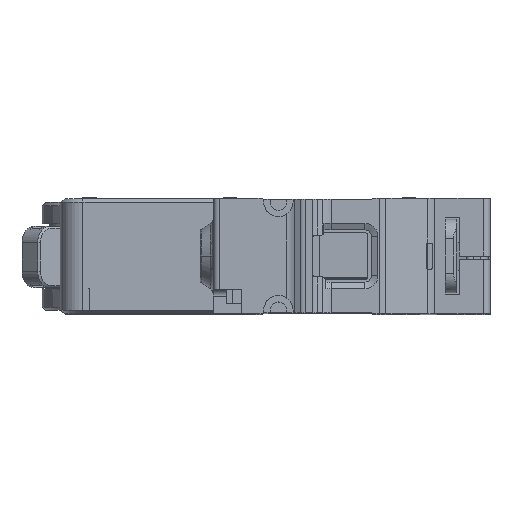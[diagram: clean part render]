
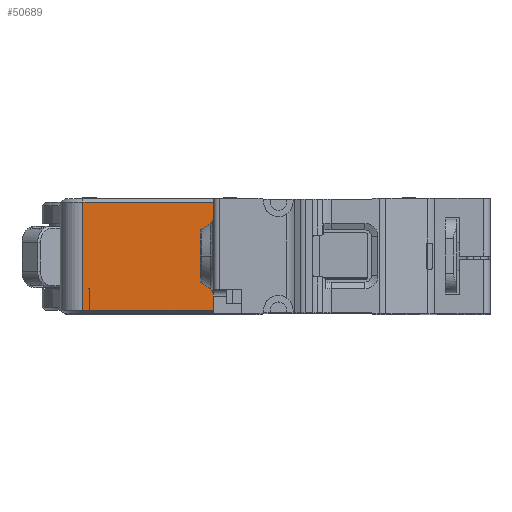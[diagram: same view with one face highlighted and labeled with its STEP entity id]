
A CAD part, top view. The second image highlights one B-rep face of the part: STEP entity #50689.
In plain terms, the highlighted planar face has unit normal (0, 0, 1).
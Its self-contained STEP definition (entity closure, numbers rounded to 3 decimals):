
#3426=DIRECTION('',(0.,-1.,0.));
#3427=VECTOR('',#3426,3.3);
#3428=CARTESIAN_POINT('',(-10.05,3.85,30.));
#3429=LINE('',#3428,#3427);
#3430=DIRECTION('',(-1.,0.,0.));
#3431=VECTOR('',#3430,0.95);
#3432=CARTESIAN_POINT('',(-10.05,0.55,
30.));
#3433=LINE('',#3432,#3431);
#3434=DIRECTION('',(1.,0.,0.));
#3435=VECTOR('',#3434,20.);
#3436=CARTESIAN_POINT('',(-11.,17.15,30.));
#3437=LINE('',#3436,#3435);
#3438=DIRECTION('',(0.,-1.,0.));
#3439=VECTOR('',#3438,16.6);
#3440=CARTESIAN_POINT('',(9.,17.15,30.));
#3441=LINE('',#3440,#3439);
#3446=DIRECTION('',(0.,-1.,0.));
#3447=VECTOR('',#3446,3.3);
#3448=CARTESIAN_POINT('',(-10.,3.85,30.));
#3449=LINE('',#3448,#3447);
#3472=DIRECTION('',(1.,0.,0.));
#3473=VECTOR('',#3472,0.05);
#3474=CARTESIAN_POINT('',(-10.05,3.85,30.));
#3475=LINE('',#3474,#3473);
#14625=DIRECTION('',(0.,-1.,0.));
#14626=VECTOR('',#14625,16.6);
#14627=CARTESIAN_POINT('',(-11.,17.15,
30.));
#14628=LINE('',#14627,#14626);
#21756=DIRECTION('',(1.,0.,0.));
#21757=VECTOR('',#21756,19.);
#21758=CARTESIAN_POINT('',(-10.,0.55,30.));
#21759=LINE('',#21758,#21757);
#37736=CARTESIAN_POINT('',(9.,0.55,30.));
#37737=VERTEX_POINT('',#37736);
#40473=CARTESIAN_POINT('',(-10.,0.55,30.));
#40474=VERTEX_POINT('',#40473);
#44775=CARTESIAN_POINT('',(9.,17.15,30.));
#44776=VERTEX_POINT('',#44775);
#44878=CARTESIAN_POINT('',(-10.05,3.85,30.));
#44879=VERTEX_POINT('',#44878);
#44914=CARTESIAN_POINT('',(-11.,0.55,30.));
#44915=VERTEX_POINT('',#44914);
#44918=CARTESIAN_POINT('',(-11.,17.15,30.));
#44919=VERTEX_POINT('',#44918);
#44938=CARTESIAN_POINT('',(-10.05,0.55,
30.));
#44939=VERTEX_POINT('',#44938);
#45945=CARTESIAN_POINT('',(-10.,3.85,30.));
#45947=VERTEX_POINT('',#45945);
#50667=CARTESIAN_POINT('',(-14.,0.,30.));
#50668=DIRECTION('',(0.,0.,1.));
#50669=DIRECTION('',(1.,0.,0.));
#50670=AXIS2_PLACEMENT_3D('',#50667,#50668,#50669);
#50671=PLANE('',#50670);
#50673=ORIENTED_EDGE('',*,*,#50672,.F.);
#50675=ORIENTED_EDGE('',*,*,#50674,.F.);
#50677=ORIENTED_EDGE('',*,*,#50676,.T.);
#50679=ORIENTED_EDGE('',*,*,#50678,.T.);
#50681=ORIENTED_EDGE('',*,*,#50680,.F.);
#50683=ORIENTED_EDGE('',*,*,#50682,.T.);
#50684=ORIENTED_EDGE('',*,*,#50631,.T.);
#50686=ORIENTED_EDGE('',*,*,#50685,.F.);
#50687=EDGE_LOOP('',(#50673,#50675,#50677,#50679,#50681,#50683,#50684,#50686));
#50688=FACE_OUTER_BOUND('',#50687,.F.);
#50689=ADVANCED_FACE('',(#50688),#50671,.T.);
#50631=EDGE_CURVE('',#44776,#37737,#3441,.T.);
#50672=EDGE_CURVE('',#45947,#40474,#3449,.T.);
#50674=EDGE_CURVE('',#44879,#45947,#3475,.T.);
#50676=EDGE_CURVE('',#44879,#44939,#3429,.T.);
#50678=EDGE_CURVE('',#44939,#44915,#3433,.T.);
#50680=EDGE_CURVE('',#44919,#44915,#14628,.T.);
#50682=EDGE_CURVE('',#44919,#44776,#3437,.T.);
#50685=EDGE_CURVE('',#40474,#37737,#21759,.T.);
